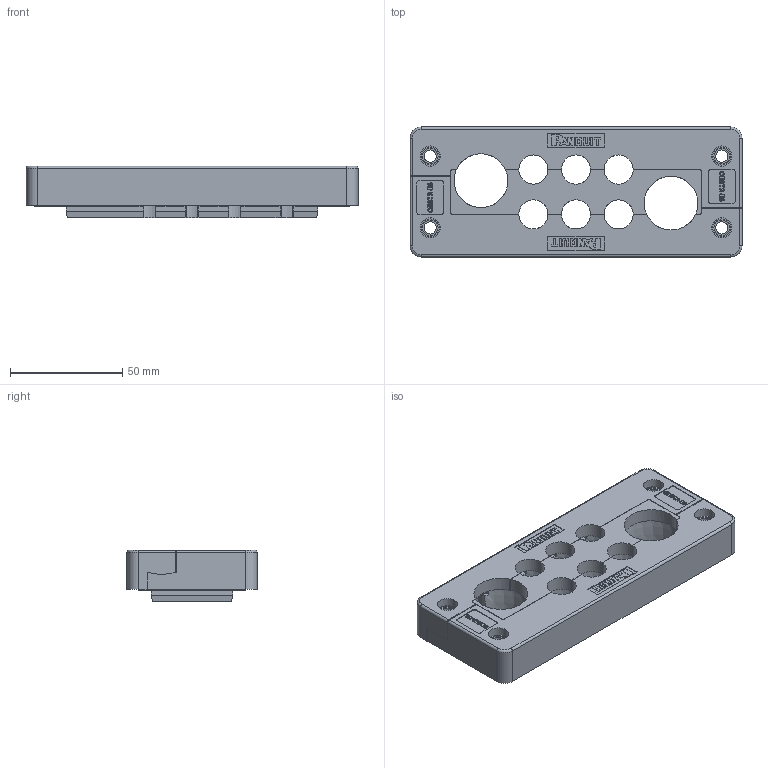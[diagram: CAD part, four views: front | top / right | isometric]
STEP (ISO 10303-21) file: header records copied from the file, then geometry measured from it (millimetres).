
FILE_DESCRIPTION(/* description */ (''),/* implementation_level */ '2;1');
FILE_NAME(/* name */ 'H:\SapWorkDir\Inventor\MP1\ConvertTempPath\87_11_121451_00_A_220620_KDL-D 24-8 ZSB.stp',/* time_stamp */ '2022-06-20T07:57:38+02:00',/* author */ ('BAUER'),/* organization */ (''),/* preprocessor_version */ 'ST-DEVELOPER v16.13',/* originating_system */ 'Autodesk Inventor 2018',/* authorisation */ '');
FILE_SCHEMA (('AUTOMOTIVE_DESIGN { 1 0 10303 214 3 1 1 }'));
Length unit declared in the file: millimetre
Products named in the file (4): 121451; 120123_Tüllenblock_2_6; 121397; 87_11_107194_A_120321_KDL-D_24_Mittelteil
Assembly tree (4 placements, depth 2):
  121451
    120123_Tüllenblock_2_6
    121397  x2
    87_11_107194_A_120321_KDL-D_24_Mittelteil
Bounding box: 148 x 58 x 23 mm (x, y, z)
Volume: 111087.6 mm3; surface area: 58502.9 mm2
Topology: 4 solids, 4 shells, 1412 faces, 3829 edges, 2524 vertices
Faces by surface type: plane 894, bspline 230, cylinder 213, cone 47, torus 20, sphere 8
Full cylindrical faces by diameter (mm): 5 x6, 5.5 x10, 6 x2, 7 x4, 8 x4, 9 x4
Entity records: 35482 total; most frequent: CARTESIAN_POINT 9094, ORIENTED_EDGE 5666, DIRECTION 4883, EDGE_CURVE 2833, LINE 1883, VECTOR 1883, VERTEX_POINT 1880, AXIS2_PLACEMENT_3D 1500
